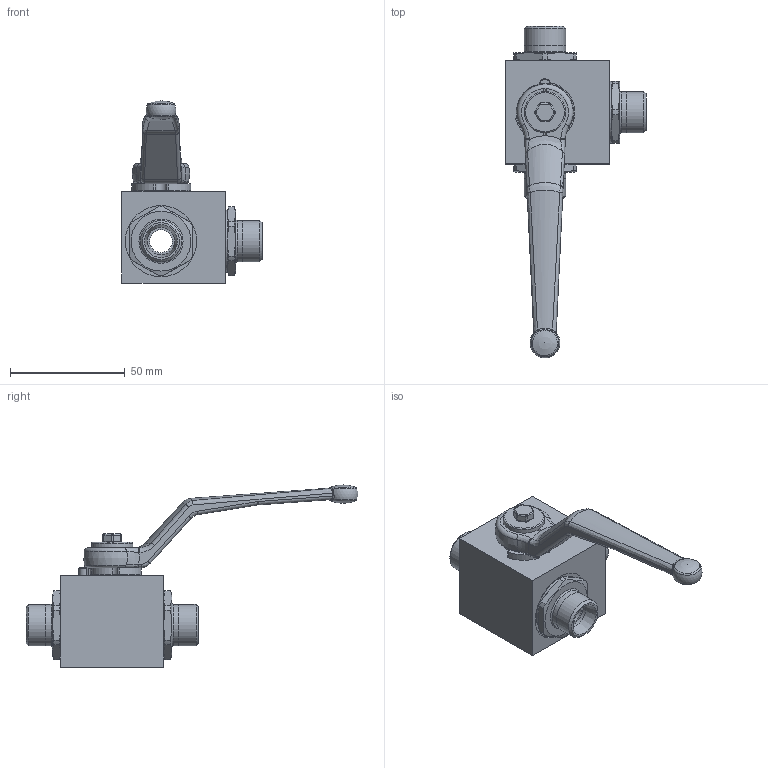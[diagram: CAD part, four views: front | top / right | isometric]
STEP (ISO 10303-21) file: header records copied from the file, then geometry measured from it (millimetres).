
FILE_DESCRIPTION( ( 'Unknown' ), '1' );
FILE_NAME( 'H:/PISTER/3D-MODELLE/BK3-Edelstahl stp/BK3-Edelst DN10 12L.stp', 'Unknown', ( 'Unknown' ), ( 'Unknown' ), 'PSStep 14.0', 'Unknown', ' ' );
FILE_SCHEMA( ( 'AUTOMOTIVE_DESIGN { 1 0 10303 214 1 1 1 1 }' ) );
Length unit declared in the file: millimetre
Products named in the file (11): Assem1; 09-09-003; 58-28740-16-oa2; 58-0440-009; 58-0933-235; 03-010-003-oa4; 04-010-054-oa5; 04-010-054-oa6; 56-032-101-oa11; Griff_SW9; 01-010-067-oa12
Assembly tree (10 placements, depth 2):
  Assem1
    09-09-003
    58-28740-16-oa2
    58-0440-009
    58-0933-235
    03-010-003-oa4
    04-010-054-oa5
    04-010-054-oa6
    56-032-101-oa11
    Griff_SW9
    01-010-067-oa12
Bounding box: 61 x 144.5 x 79.3 mm (x, y, z)
Volume: 78056.3 mm3; surface area: 32644.9 mm2
Topology: 10 solids, 10 shells, 361 faces, 894 edges, 561 vertices
Faces by surface type: cylinder 121, plane 121, cone 42, torus 37, bspline 36, sphere 4
Full cylindrical faces by diameter (mm): 4.2 x1, 4.98 x1, 5 x1, 5.8 x1, 10 x3, 12 x3, 14 x2, 18 x7, 21.1 x1, 22.376 x1, 22.5 x1, 24 x1, 24.35 x1, 25 x2, 27 x3, 31 x3
Entity records: 14911 total; most frequent: CARTESIAN_POINT 4052, DIRECTION 1649, ORIENTED_EDGE 1588, EDGE_CURVE 794, AXIS2_PLACEMENT_3D 678, VERTEX_POINT 529, EDGE_LOOP 456, FACE_OUTER_BOUND 406
